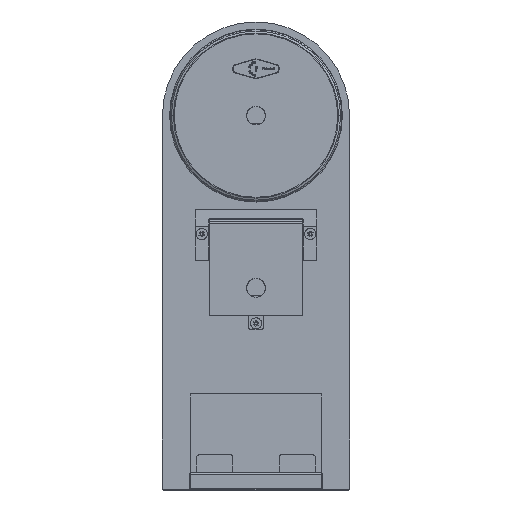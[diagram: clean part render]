
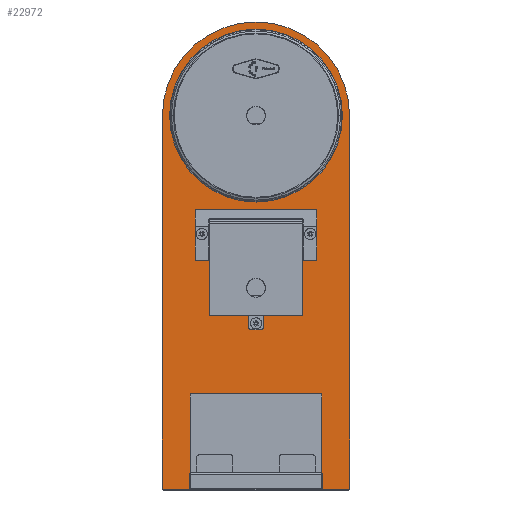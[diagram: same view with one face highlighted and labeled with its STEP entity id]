
A CAD part, top view. The second image highlights one B-rep face of the part: STEP entity #22972.
In plain terms, the highlighted planar face has unit normal (0, 0, 1).
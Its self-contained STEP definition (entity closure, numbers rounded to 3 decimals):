
#2644=CARTESIAN_POINT('',(-99.,-199.,1.));
#2645=DIRECTION('',(0.,0.,1.));
#2646=DIRECTION('',(-1.,0.,0.));
#2647=AXIS2_PLACEMENT_3D('',#2644,#2645,#2646);
#2649=CARTESIAN_POINT('',(0.,200.,1.));
#2650=DIRECTION('',(0.,0.,1.));
#2651=DIRECTION('',(1.,0.,0.));
#2652=AXIS2_PLACEMENT_3D('',#2649,#2650,#2651);
#2654=CARTESIAN_POINT('',(99.,-199.,1.));
#2655=DIRECTION('',(0.,0.,1.));
#2656=DIRECTION('',(0.,-1.,0.));
#2657=AXIS2_PLACEMENT_3D('',#2654,#2655,#2656);
#2659=CARTESIAN_POINT('',(0.,200.,1.));
#2660=DIRECTION('',(0.,0.,-1.));
#2661=DIRECTION('',(1.,0.,0.));
#2662=AXIS2_PLACEMENT_3D('',#2659,#2660,#2661);
#2664=CARTESIAN_POINT('',(0.,200.,1.));
#2665=DIRECTION('',(0.,0.,-1.));
#2666=DIRECTION('',(-1.,0.,0.));
#2667=AXIS2_PLACEMENT_3D('',#2664,#2665,#2666);
#2677=DIRECTION('',(-1.,0.,0.));
#2678=VECTOR('',#2677,198.);
#2679=CARTESIAN_POINT('',(99.,-200.,1.));
#2680=LINE('',#2679,#2678);
#2689=DIRECTION('',(0.,-1.,0.));
#2690=VECTOR('',#2689,399.);
#2691=CARTESIAN_POINT('',(100.,200.,1.));
#2692=LINE('',#2691,#2690);
#2701=DIRECTION('',(0.,1.,0.));
#2702=VECTOR('',#2701,399.);
#2703=CARTESIAN_POINT('',(-100.,-199.,1.));
#2704=LINE('',#2703,#2702);
#9310=DIRECTION('',(0.,-1.,0.));
#9311=VECTOR('',#9310,4.633);
#9312=CARTESIAN_POINT('',(-50.,89.27,1.));
#9313=LINE('',#9312,#9311);
#9336=DIRECTION('',(1.,0.,0.));
#9337=VECTOR('',#9336,100.);
#9338=CARTESIAN_POINT('',(-50.,89.27,1.));
#9339=LINE('',#9338,#9337);
#9344=DIRECTION('',(0.,1.,0.));
#9345=VECTOR('',#9344,4.633);
#9346=CARTESIAN_POINT('',(50.,84.637,1.));
#9347=LINE('',#9346,#9345);
#9370=DIRECTION('',(-1.,0.,0.));
#9371=VECTOR('',#9370,100.);
#9372=CARTESIAN_POINT('',(50.,84.637,1.));
#9373=LINE('',#9372,#9371);
#9799=DIRECTION('',(0.,-1.,0.));
#9800=VECTOR('',#9799,3.244);
#9801=CARTESIAN_POINT('',(65.,98.46,1.));
#9802=LINE('',#9801,#9800);
#9833=DIRECTION('',(-1.,0.,0.));
#9834=VECTOR('',#9833,130.);
#9835=CARTESIAN_POINT('',(65.,95.216,1.));
#9836=LINE('',#9835,#9834);
#9851=DIRECTION('',(0.,1.,0.));
#9852=VECTOR('',#9851,3.244);
#9853=CARTESIAN_POINT('',(-65.,95.216,1.));
#9854=LINE('',#9853,#9852);
#9883=CARTESIAN_POINT('',(-65.,98.46,1.));
#9884=CARTESIAN_POINT('',(-65.,98.543,1.));
#9885=CARTESIAN_POINT('',(-64.98,98.691,1.));
#9886=CARTESIAN_POINT('',(-64.895,98.939,1.));
#9887=CARTESIAN_POINT('',(-64.722,99.183,1.));
#9888=CARTESIAN_POINT('',(-64.478,99.357,1.));
#9889=CARTESIAN_POINT('',(-64.231,99.444,1.));
#9890=CARTESIAN_POINT('',(-64.083,99.464,1.));
#9891=CARTESIAN_POINT('',(-64.,99.464,1.));
#9897=DIRECTION('',(-1.,0.,0.));
#9898=VECTOR('',#9897,128.);
#9899=CARTESIAN_POINT('',(64.,99.464,1.));
#9900=LINE('',#9899,#9898);
#9905=CARTESIAN_POINT('',(65.,98.46,1.));
#9906=CARTESIAN_POINT('',(65.,98.543,1.));
#9907=CARTESIAN_POINT('',(64.98,98.691,1.));
#9908=CARTESIAN_POINT('',(64.895,98.939,1.));
#9909=CARTESIAN_POINT('',(64.722,99.183,1.));
#9910=CARTESIAN_POINT('',(64.478,99.357,1.));
#9911=CARTESIAN_POINT('',(64.231,99.444,1.));
#9912=CARTESIAN_POINT('',(64.083,99.464,1.));
#9913=CARTESIAN_POINT('',(64.,99.464,1.));
#11388=DIRECTION('',(0.,-1.,0.));
#11389=VECTOR('',#11388,97.5);
#11390=CARTESIAN_POINT('',(-70.,-98.5,1.));
#11391=LINE('',#11390,#11389);
#11414=CARTESIAN_POINT('',(-68.,-98.5,1.));
#11415=DIRECTION('',(0.,0.,-1.));
#11416=DIRECTION('',(-1.,0.,0.));
#11417=AXIS2_PLACEMENT_3D('',#11414,#11415,#11416);
#11427=DIRECTION('',(1.,0.,0.));
#11428=VECTOR('',#11427,136.);
#11429=CARTESIAN_POINT('',(-68.,-96.5,1.));
#11430=LINE('',#11429,#11428);
#11431=CARTESIAN_POINT('',(68.,-98.5,1.));
#11432=DIRECTION('',(0.,0.,1.));
#11433=DIRECTION('',(1.,0.,0.));
#11434=AXIS2_PLACEMENT_3D('',#11431,#11432,#11433);
#11444=DIRECTION('',(0.,-1.,0.));
#11445=VECTOR('',#11444,97.5);
#11446=CARTESIAN_POINT('',(70.,-98.5,1.));
#11447=LINE('',#11446,#11445);
#11462=DIRECTION('',(-1.,0.,0.));
#11463=VECTOR('',#11462,140.);
#11464=CARTESIAN_POINT('',(70.,-196.,1.));
#11465=LINE('',#11464,#11463);
#21251=CARTESIAN_POINT('',(99.,-200.,1.));
#21252=CARTESIAN_POINT('',(100.,-199.,1.));
#21253=VERTEX_POINT('',#21251);
#21254=VERTEX_POINT('',#21252);
#21255=CARTESIAN_POINT('',(100.,200.,1.));
#21256=VERTEX_POINT('',#21255);
#21257=CARTESIAN_POINT('',(-99.,-200.,1.));
#21258=VERTEX_POINT('',#21257);
#21259=CARTESIAN_POINT('',(-100.,-199.,1.));
#21260=VERTEX_POINT('',#21259);
#21261=CARTESIAN_POINT('',(-100.,200.,1.));
#21262=VERTEX_POINT('',#21261);
#21263=CARTESIAN_POINT('',(-92.318,200.,1.));
#21264=CARTESIAN_POINT('',(92.318,200.,1.));
#21265=VERTEX_POINT('',#21263);
#21266=VERTEX_POINT('',#21264);
#21283=CARTESIAN_POINT('',(65.,95.216,1.));
#21284=CARTESIAN_POINT('',(-65.,95.216,1.));
#21285=VERTEX_POINT('',#21283);
#21286=VERTEX_POINT('',#21284);
#21287=CARTESIAN_POINT('',(64.,99.464,1.));
#21288=CARTESIAN_POINT('',(-64.,99.464,1.));
#21289=VERTEX_POINT('',#21287);
#21290=VERTEX_POINT('',#21288);
#21291=CARTESIAN_POINT('',(65.,98.46,1.));
#21292=VERTEX_POINT('',#21291);
#21293=CARTESIAN_POINT('',(-65.,98.46,1.));
#21294=VERTEX_POINT('',#21293);
#21311=CARTESIAN_POINT('',(-70.,-98.5,1.));
#21312=CARTESIAN_POINT('',(-70.,-196.,1.));
#21313=VERTEX_POINT('',#21311);
#21314=VERTEX_POINT('',#21312);
#21315=CARTESIAN_POINT('',(-68.,-96.5,1.));
#21316=VERTEX_POINT('',#21315);
#21317=CARTESIAN_POINT('',(70.,-98.5,1.));
#21318=CARTESIAN_POINT('',(68.,-96.5,1.));
#21319=VERTEX_POINT('',#21317);
#21320=VERTEX_POINT('',#21318);
#21321=CARTESIAN_POINT('',(70.,-196.,1.));
#21322=VERTEX_POINT('',#21321);
#21791=CARTESIAN_POINT('',(-50.,89.27,1.));
#21792=CARTESIAN_POINT('',(-50.,84.637,1.));
#21793=VERTEX_POINT('',#21791);
#21794=VERTEX_POINT('',#21792);
#21799=CARTESIAN_POINT('',(50.,84.637,1.));
#21800=CARTESIAN_POINT('',(50.,89.27,1.));
#21801=VERTEX_POINT('',#21799);
#21802=VERTEX_POINT('',#21800);
#22911=CARTESIAN_POINT('',(-99.,-199.,1.));
#22912=DIRECTION('',(0.,0.,1.));
#22913=DIRECTION('',(1.,0.,0.));
#22914=AXIS2_PLACEMENT_3D('',#22911,#22912,#22913);
#22915=PLANE('',#22914);
#22917=ORIENTED_EDGE('',*,*,#22916,.F.);
#22919=ORIENTED_EDGE('',*,*,#22918,.T.);
#22921=ORIENTED_EDGE('',*,*,#22920,.F.);
#22923=ORIENTED_EDGE('',*,*,#22922,.T.);
#22925=ORIENTED_EDGE('',*,*,#22924,.F.);
#22927=ORIENTED_EDGE('',*,*,#22926,.T.);
#22928=EDGE_LOOP('',(#22917,#22919,#22921,#22923,#22925,#22927));
#22929=FACE_OUTER_BOUND('',#22928,.F.);
#22931=ORIENTED_EDGE('',*,*,#22930,.T.);
#22933=ORIENTED_EDGE('',*,*,#22932,.F.);
#22935=ORIENTED_EDGE('',*,*,#22934,.T.);
#22937=ORIENTED_EDGE('',*,*,#22936,.F.);
#22938=EDGE_LOOP('',(#22931,#22933,#22935,#22937));
#22939=FACE_BOUND('',#22938,.F.);
#22940=ORIENTED_EDGE('',*,*,#22890,.F.);
#22941=ORIENTED_EDGE('',*,*,#22904,.F.);
#22942=EDGE_LOOP('',(#22940,#22941));
#22943=FACE_BOUND('',#22942,.F.);
#22945=ORIENTED_EDGE('',*,*,#22944,.F.);
#22947=ORIENTED_EDGE('',*,*,#22946,.F.);
#22949=ORIENTED_EDGE('',*,*,#22948,.T.);
#22951=ORIENTED_EDGE('',*,*,#22950,.T.);
#22953=ORIENTED_EDGE('',*,*,#22952,.F.);
#22955=ORIENTED_EDGE('',*,*,#22954,.F.);
#22956=EDGE_LOOP('',(#22945,#22947,#22949,#22951,#22953,#22955));
#22957=FACE_BOUND('',#22956,.F.);
#22959=ORIENTED_EDGE('',*,*,#22958,.T.);
#22961=ORIENTED_EDGE('',*,*,#22960,.F.);
#22963=ORIENTED_EDGE('',*,*,#22962,.F.);
#22965=ORIENTED_EDGE('',*,*,#22964,.T.);
#22967=ORIENTED_EDGE('',*,*,#22966,.F.);
#22969=ORIENTED_EDGE('',*,*,#22968,.F.);
#22970=EDGE_LOOP('',(#22959,#22961,#22963,#22965,#22967,#22969));
#22971=FACE_BOUND('',#22970,.F.);
#22972=ADVANCED_FACE('',(#22929,#22939,#22943,#22957,#22971),#22915,.T.);
#2648=CIRCLE('',#2647,1.);
#2653=CIRCLE('',#2652,100.);
#2658=CIRCLE('',#2657,1.);
#2663=CIRCLE('',#2662,92.318);
#2668=CIRCLE('',#2667,92.318);
#9892=B_SPLINE_CURVE_WITH_KNOTS('',3,(#9883,#9884,#9885,#9886,#9887,#9888,#9889,
#9890,#9891),.UNSPECIFIED.,.F.,.F.,(4,1,1,1,1,1,4),(0.,0.125,0.25,0.5,
0.75,0.875,1.),.UNSPECIFIED.);
#9914=B_SPLINE_CURVE_WITH_KNOTS('',3,(#9905,#9906,#9907,#9908,#9909,#9910,#9911,
#9912,#9913),.UNSPECIFIED.,.F.,.F.,(4,1,1,1,1,1,4),(0.,0.125,0.25,0.5,
0.75,0.875,1.),.UNSPECIFIED.);
#11418=CIRCLE('',#11417,2.);
#11435=CIRCLE('',#11434,2.);
#22890=EDGE_CURVE('',#21266,#21265,#2663,.T.);
#22904=EDGE_CURVE('',#21265,#21266,#2668,.T.);
#22916=EDGE_CURVE('',#21260,#21258,#2648,.T.);
#22918=EDGE_CURVE('',#21260,#21262,#2704,.T.);
#22920=EDGE_CURVE('',#21256,#21262,#2653,.T.);
#22922=EDGE_CURVE('',#21256,#21254,#2692,.T.);
#22924=EDGE_CURVE('',#21253,#21254,#2658,.T.);
#22926=EDGE_CURVE('',#21253,#21258,#2680,.T.);
#22930=EDGE_CURVE('',#21793,#21794,#9313,.T.);
#22932=EDGE_CURVE('',#21801,#21794,#9373,.T.);
#22934=EDGE_CURVE('',#21801,#21802,#9347,.T.);
#22936=EDGE_CURVE('',#21793,#21802,#9339,.T.);
#22944=EDGE_CURVE('',#21285,#21286,#9836,.T.);
#22946=EDGE_CURVE('',#21292,#21285,#9802,.T.);
#22948=EDGE_CURVE('',#21292,#21289,#9914,.T.);
#22950=EDGE_CURVE('',#21289,#21290,#9900,.T.);
#22952=EDGE_CURVE('',#21294,#21290,#9892,.T.);
#22954=EDGE_CURVE('',#21286,#21294,#9854,.T.);
#22958=EDGE_CURVE('',#21313,#21314,#11391,.T.);
#22960=EDGE_CURVE('',#21322,#21314,#11465,.T.);
#22962=EDGE_CURVE('',#21319,#21322,#11447,.T.);
#22964=EDGE_CURVE('',#21319,#21320,#11435,.T.);
#22966=EDGE_CURVE('',#21316,#21320,#11430,.T.);
#22968=EDGE_CURVE('',#21313,#21316,#11418,.T.);
